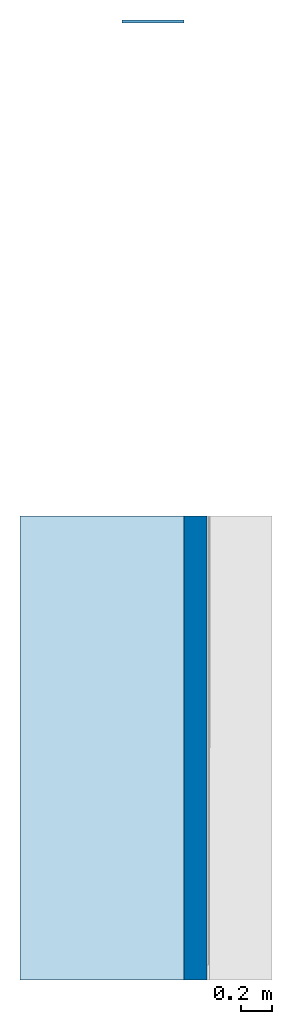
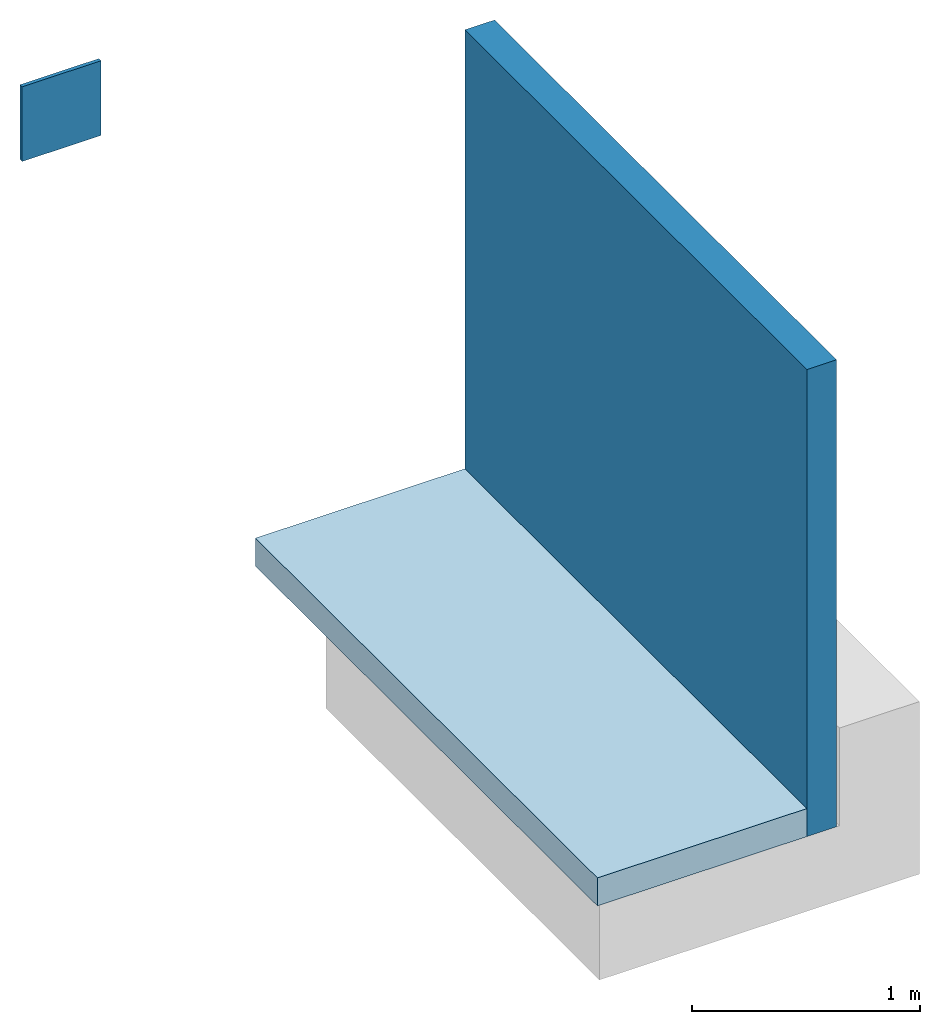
# One storey, part 1 of 2: 2 walls, 1 slab.
"""IFC2X3 building model written with IfcOpenShell, lengths in metres."""

from ifc_helpers import new_model, entity, si_unit, converted_unit, derived_unit, direction, frame, frame_2d, origin, place, context, subcontext, project, spatial, rectangle, extrude, material, layer, layer_set, layer_usage, type_object, element, save


model = new_model("IFC2X3")

# Units and contexts
model_context = context("Model", 3, precision=1e-05, world=origin(), true_north=direction((6.123031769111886e-17, 1.0)))
body_context = subcontext(model_context, "Body", "Model", "MODEL_VIEW")
ifc_project = project(units=[si_unit("LENGTHUNIT", "METRE"), si_unit("AREAUNIT", "SQUARE_METRE"), si_unit("VOLUMEUNIT", "CUBIC_METRE"), converted_unit("PLANEANGLEUNIT", "DEGREE", entity("IfcRatioMeasure", 0.017453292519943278), si_unit("PLANEANGLEUNIT", "RADIAN"), dimensions=[0, 0, 0, 0, 0, 0, 0]), si_unit("MASSUNIT", "GRAM", prefix="KILO"), derived_unit("MASSDENSITYUNIT", [(si_unit("MASSUNIT", "GRAM", prefix="KILO"), 1), (si_unit("LENGTHUNIT", "METRE"), -3)]), derived_unit("IONCONCENTRATIONUNIT", [(si_unit("MASSUNIT", "GRAM", prefix="KILO"), 1), (si_unit("LENGTHUNIT", "METRE"), -3)]), derived_unit("MOMENTOFINERTIAUNIT", [(si_unit("LENGTHUNIT", "METRE"), 4)]), si_unit("TIMEUNIT", "SECOND"), si_unit("FREQUENCYUNIT", "HERTZ"), si_unit("THERMODYNAMICTEMPERATUREUNIT", "DEGREE_CELSIUS"), derived_unit("THERMALTRANSMITTANCEUNIT", [(si_unit("MASSUNIT", "GRAM", prefix="KILO"), 1), (si_unit("THERMODYNAMICTEMPERATUREUNIT", "KELVIN"), -1), (si_unit("TIMEUNIT", "SECOND"), -3)]), derived_unit("THERMALCONDUCTANCEUNIT", [(si_unit("MASSUNIT", "GRAM", prefix="KILO"), 1), (si_unit("THERMODYNAMICTEMPERATUREUNIT", "KELVIN"), -1), (si_unit("TIMEUNIT", "SECOND"), -3), (si_unit("LENGTHUNIT", "METRE"), 1)]), derived_unit("VOLUMETRICFLOWRATEUNIT", [(si_unit("LENGTHUNIT", "METRE"), 3), (si_unit("TIMEUNIT", "SECOND"), -1)]), derived_unit("MASSFLOWRATEUNIT", [(si_unit("MASSUNIT", "GRAM", prefix="KILO"), 1), (si_unit("TIMEUNIT", "SECOND"), -1)]), derived_unit("ROTATIONALFREQUENCYUNIT", [(si_unit("TIMEUNIT", "SECOND"), -1)]), si_unit("ELECTRICCURRENTUNIT", "AMPERE"), si_unit("ELECTRICVOLTAGEUNIT", "VOLT"), si_unit("POWERUNIT", "WATT"), si_unit("FORCEUNIT", "NEWTON", prefix="KILO"), si_unit("ILLUMINANCEUNIT", "LUX"), si_unit("LUMINOUSFLUXUNIT", "LUMEN"), si_unit("LUMINOUSINTENSITYUNIT", "CANDELA"), derived_unit("USERDEFINED", [(si_unit("MASSUNIT", "GRAM", prefix="KILO"), -1), (si_unit("LENGTHUNIT", "METRE"), -2), (si_unit("TIMEUNIT", "SECOND"), 3), (si_unit("LUMINOUSFLUXUNIT", "LUMEN"), 1)]), derived_unit("USERDEFINED", [(si_unit("MASSUNIT", "GRAM", prefix="KILO"), 1), (si_unit("TIMEUNIT", "SECOND"), -3), (si_unit("LENGTHUNIT", "METRE"), 3), (si_unit("ELECTRICCURRENTUNIT", "AMPERE"), -2)]), derived_unit("SOUNDPOWERUNIT", [(si_unit("MASSUNIT", "GRAM", prefix="KILO"), 1), (si_unit("TIMEUNIT", "SECOND"), -3), (si_unit("LENGTHUNIT", "METRE"), 2)]), derived_unit("SOUNDPRESSUREUNIT", [(si_unit("MASSUNIT", "GRAM", prefix="KILO"), 1), (si_unit("LENGTHUNIT", "METRE"), -1), (si_unit("TIMEUNIT", "SECOND"), -2)]), derived_unit("LINEARVELOCITYUNIT", [(si_unit("LENGTHUNIT", "METRE"), 1), (si_unit("TIMEUNIT", "SECOND"), -1)]), si_unit("PRESSUREUNIT", "PASCAL"), derived_unit("USERDEFINED", [(si_unit("MASSUNIT", "GRAM", prefix="KILO"), 1), (si_unit("LENGTHUNIT", "METRE"), -2), (si_unit("TIMEUNIT", "SECOND"), -2)]), derived_unit("LINEARFORCEUNIT", [(si_unit("MASSUNIT", "GRAM", prefix="KILO"), 1), (si_unit("TIMEUNIT", "SECOND"), -2)]), derived_unit("PLANARFORCEUNIT", [(si_unit("MASSUNIT", "GRAM", prefix="KILO"), 1), (si_unit("LENGTHUNIT", "METRE"), -1), (si_unit("TIMEUNIT", "SECOND"), -2)]), derived_unit("SPECIFICHEATCAPACITYUNIT", [(si_unit("THERMODYNAMICTEMPERATUREUNIT", "KELVIN"), -1), (si_unit("LENGTHUNIT", "METRE"), 2), (si_unit("TIMEUNIT", "SECOND"), -2)]), derived_unit("HEATINGVALUEUNIT", [(si_unit("LENGTHUNIT", "METRE"), 2), (si_unit("TIMEUNIT", "SECOND"), -2)]), derived_unit("VAPORPERMEABILITYUNIT", [(si_unit("LENGTHUNIT", "METRE"), -1), (si_unit("TIMEUNIT", "SECOND"), 1)]), derived_unit("DYNAMICVISCOSITYUNIT", [(si_unit("MASSUNIT", "GRAM", prefix="KILO"), 1), (si_unit("TIMEUNIT", "SECOND"), -1), (si_unit("LENGTHUNIT", "METRE"), -1)]), derived_unit("THERMALEXPANSIONCOEFFICIENTUNIT", [(si_unit("THERMODYNAMICTEMPERATUREUNIT", "KELVIN"), -1)]), derived_unit("MODULUSOFELASTICITYUNIT", [(si_unit("MASSUNIT", "GRAM", prefix="KILO"), 1), (si_unit("LENGTHUNIT", "METRE"), -1), (si_unit("TIMEUNIT", "SECOND"), -2)]), derived_unit("ISOTHERMALMOISTURECAPACITYUNIT", [(si_unit("LENGTHUNIT", "METRE"), 3), (si_unit("MASSUNIT", "GRAM", prefix="KILO"), -1)]), derived_unit("MOISTUREDIFFUSIVITYUNIT", [(si_unit("TIMEUNIT", "SECOND"), -1), (si_unit("LENGTHUNIT", "METRE"), 2)])], contexts=[model_context])

# Site, building, storey
site_placement = place(None, origin())
site = spatial("IfcSite", under=ifc_project, at=site_placement, Name="Default", CompositionType="ELEMENT")
building_placement = place(site_placement, origin())
building = spatial("IfcBuilding", under=site, at=building_placement, CompositionType="ELEMENT")
storey_placement = place(building_placement, frame((0.0, 0.0, -0.0025237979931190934)))
storey = spatial("IfcBuildingStorey", under=building, at=storey_placement, Name="ARQ Térreo", CompositionType="ELEMENT", Elevation=-0.0025237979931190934)

# Slab
ifc_material_1 = material(Name="#concreto")
ifc_layer_1 = layer(ifc_material_1, 0.14999999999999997)
ifc_layer_set_1 = layer_set([ifc_layer_1], Name="Piso:Genérico 150 mm")
ifc_layer_usage_1 = layer_usage(ifc_layer_set_1, "AXIS3", "POSITIVE", 0.0)
slab_type = type_object("IfcSlabType", Name="Piso:Genérico 150 mm", PredefinedType="FLOOR", material=ifc_layer_set_1)
slab_placement = place(storey_placement, origin())
element("IfcSlab", 1, at=slab_placement, inside=storey, type_object=slab_type, material=ifc_layer_usage_1, Name="Piso:Genérico 150 mm", ObjectType="Piso:Genérico 150 mm", PredefinedType="FLOOR", context=body_context, shape_type="SweptSolid", body=[
    extrude(rectangle(XDim=3.0000000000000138, YDim=1.0608100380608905, at=frame_2d((0.0, -5.551115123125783e-17), x_axis=(1.0, 0.0))), frame((-1.0323754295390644, -1.3541299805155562, 0.14999999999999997), z_axis=(0.0, 0.0, -1.0), x_axis=(0.0, 1.0, 0.0)), (0.0, 0.0, 1.0), 0.14999999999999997),
])

# Walls
ifc_layer_2 = layer(ifc_material_1, 0.14999999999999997)
ifc_layer_set_2 = layer_set([ifc_layer_2], Name="Parede básica:Parede básica:Parede Concreto")
ifc_layer_usage_2 = layer_usage(ifc_layer_set_2, "AXIS2", "NEGATIVE", 0.07499999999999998)
wall_type_1 = type_object("IfcWallType", Name="Parede básica:Parede básica:Parede Concreto", PredefinedType="STANDARD", material=ifc_layer_set_2)
wall_1_placement = place(storey_placement, frame((-0.4269704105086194, 0.14587001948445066, 0.0), z_axis=(0.0, 0.0, 1.0), x_axis=(0.0, -1.0, 0.0)))
element("IfcWallStandardCase", 2, at=wall_1_placement, inside=storey, type_object=wall_type_1, material=ifc_layer_usage_2, Name="Parede básica:Parede Concreto", ObjectType="Parede básica:Parede Concreto", context=body_context, shape_type="SweptSolid", body=[
    extrude(rectangle(XDim=2.9999999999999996, YDim=0.15000000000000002, at=frame_2d((1.4999999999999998, 0.0), x_axis=(-1.0, 0.0))), origin(), (0.0, 0.0, 1.0), 2.4999999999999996),
])
ifc_material_2 = material(Name="#Geotextil")
ifc_layer_3 = layer(ifc_material_2, 0.003)
ifc_material_3 = material(Name="#Chapisco")
ifc_layer_4 = layer(ifc_material_3, 0.0009999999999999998)
ifc_material_4 = material(Name="#Torodin 4mm PP")
ifc_layer_5 = layer(ifc_material_4, 0.003999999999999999)
ifc_material_5 = material(Name="#Primer")
ifc_layer_6 = layer(ifc_material_5, 0.0009999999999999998)
ifc_material_6 = material(Name="#argamassa")
ifc_layer_7 = layer(ifc_material_6, 0.01)
ifc_layer_set_3 = layer_set([ifc_layer_3, ifc_layer_4, ifc_layer_5, ifc_layer_6, ifc_layer_7], Name="Parede básica:IMPV_T4PP")
ifc_layer_usage_3 = layer_usage(ifc_layer_set_3, "AXIS2", "NEGATIVE", 0.009500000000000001)
wall_type_2 = type_object("IfcWallType", Name="Parede básica:IMPV_T4PP", PredefinedType="STANDARD", material=ifc_layer_set_3)
wall_2_placement = place(storey_placement, frame((-0.5019704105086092, 3.345870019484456, 0.0), z_axis=(0.0, 0.0, 1.0), x_axis=(-1.0, 0.0, 0.0)))
element("IfcWallStandardCase", 3, at=wall_2_placement, inside=storey, type_object=wall_type_2, material=ifc_layer_usage_3, Name="Parede básica:IMPV_VP7000", ObjectType="Parede básica:IMPV_VP7000", context=body_context, shape_type="SweptSolid", body=[
    extrude(rectangle(XDim=0.40000000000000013, YDim=0.019000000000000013, at=frame_2d((0.20000000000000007, 1.2750217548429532e-16), x_axis=(-1.0, 0.0))), origin(), (0.0, 0.0, 1.0), 0.4),
])

save(model, "model.ifc")
